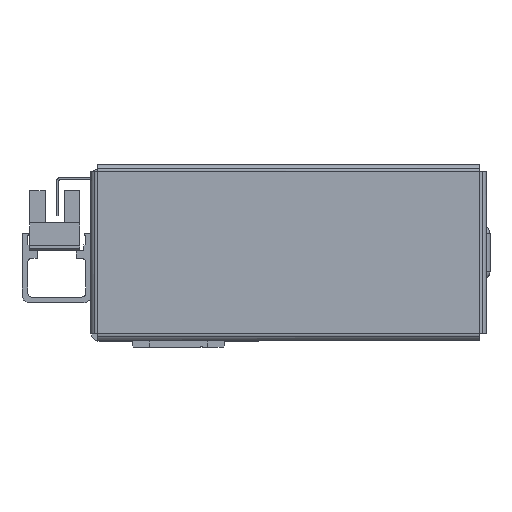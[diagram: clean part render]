
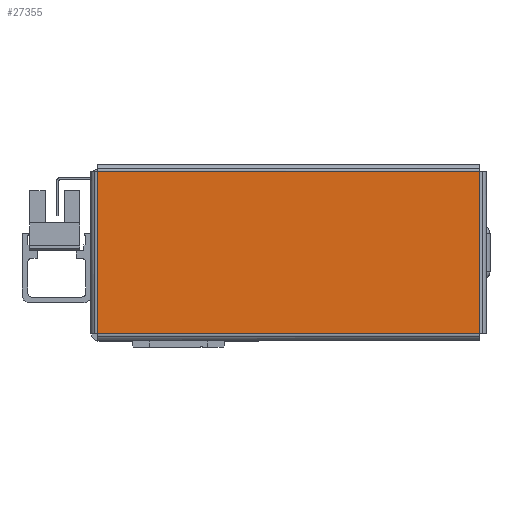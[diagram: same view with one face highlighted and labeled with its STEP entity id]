
A CAD part, left-side view. The second image highlights one B-rep face of the part: STEP entity #27355.
In plain terms, the highlighted planar face has unit normal (-1, 0, 0) as drawn and (0, 0, -1) by its records, which use the part's own axes.
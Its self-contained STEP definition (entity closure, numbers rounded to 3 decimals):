
#643 = VECTOR ( 'NONE', #31394, 1000. ) ;
#2232 = EDGE_CURVE ( 'NONE', #27598, #25113, #33368, .T. ) ;
#2442 = DIRECTION ( 'NONE',  ( 0., 0., 1. ) ) ;
#3342 = EDGE_LOOP ( 'NONE', ( #7641, #23573, #25261, #28581 ) ) ;
#3586 = CARTESIAN_POINT ( 'NONE',  ( 49.513, 21.013, -1. ) ) ;
#5109 = DIRECTION ( 'NONE',  ( -1., 0., 0. ) ) ;
#6260 = EDGE_CURVE ( 'NONE', #18490, #9300, #7705, .T. ) ;
#7641 = ORIENTED_EDGE ( 'NONE', *, *, #6260, .T. ) ;
#7705 = LINE ( 'NONE', #23219, #643 ) ;
#8814 = LINE ( 'NONE', #18476, #14241 ) ;
#9300 = VERTEX_POINT ( 'NONE', #23894 ) ;
#9611 = EDGE_CURVE ( 'NONE', #25113, #18490, #8814, .T. ) ;
#10869 = DIRECTION ( 'NONE',  ( 0., -1., 0. ) ) ;
#11975 = CARTESIAN_POINT ( 'NONE',  ( 49.513, -21.013, -1. ) ) ;
#12066 = VECTOR ( 'NONE', #10869, 1000. ) ;
#13557 = CARTESIAN_POINT ( 'NONE',  ( 49.513, 21.043, -1. ) ) ;
#14241 = VECTOR ( 'NONE', #5109, 1000. ) ;
#15432 = LINE ( 'NONE', #32318, #27978 ) ;
#16491 = FACE_OUTER_BOUND ( 'NONE', #3342, .T. ) ;
#18476 = CARTESIAN_POINT ( 'NONE',  ( 49.543, -21.013, -1. ) ) ;
#18490 = VERTEX_POINT ( 'NONE', #19777 ) ;
#18898 = DIRECTION ( 'NONE',  ( 1., 0., 0. ) ) ;
#19777 = CARTESIAN_POINT ( 'NONE',  ( -49.513, -21.013, -1. ) ) ;
#21147 = DIRECTION ( 'NONE',  ( 1., 0., 0. ) ) ;
#23219 = CARTESIAN_POINT ( 'NONE',  ( -49.513, -21.043, -1. ) ) ;
#23573 = ORIENTED_EDGE ( 'NONE', *, *, #30914, .T. ) ;
#23894 = CARTESIAN_POINT ( 'NONE',  ( -49.513, 21.013, -1. ) ) ;
#25113 = VERTEX_POINT ( 'NONE', #11975 ) ;
#25261 = ORIENTED_EDGE ( 'NONE', *, *, #2232, .T. ) ;
#27355 = ADVANCED_FACE ( 'NONE', ( #16491 ), #34461, .F. ) ;
#27598 = VERTEX_POINT ( 'NONE', #3586 ) ;
#27978 = VECTOR ( 'NONE', #18898, 1000. ) ;
#28581 = ORIENTED_EDGE ( 'NONE', *, *, #9611, .T. ) ;
#29083 = CARTESIAN_POINT ( 'NONE',  ( 0., 0., -1. ) ) ;
#30914 = EDGE_CURVE ( 'NONE', #9300, #27598, #15432, .T. ) ;
#31394 = DIRECTION ( 'NONE',  ( 0., 1., 0. ) ) ;
#32318 = CARTESIAN_POINT ( 'NONE',  ( -49.543, 21.013, -1. ) ) ;
#33368 = LINE ( 'NONE', #13557, #12066 ) ;
#34240 = AXIS2_PLACEMENT_3D ( 'NONE', #29083, #2442, #21147 ) ;
#34461 = PLANE ( 'NONE',  #34240 ) ;
